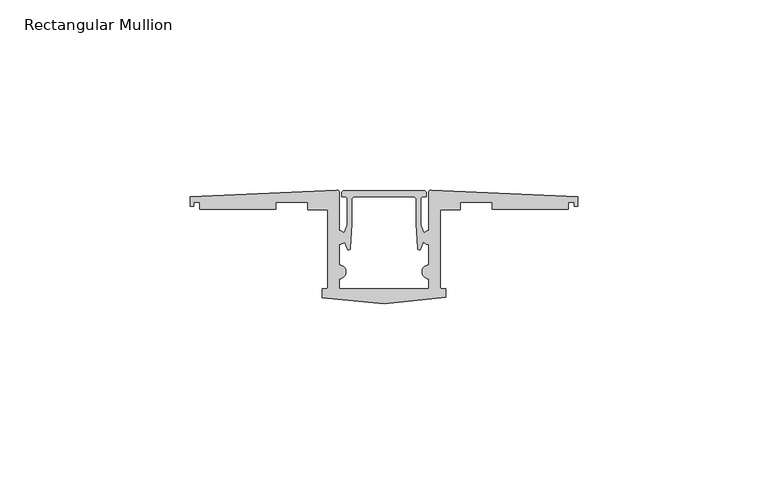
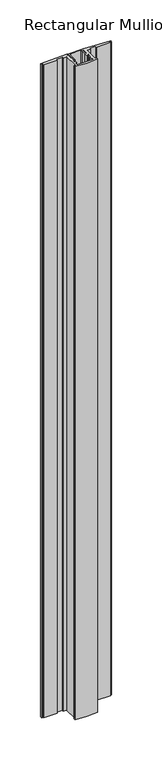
"""IFC4 building model written with IfcOpenShell, lengths in millimetres: member geometry, Rectangular Mullion : TE-H-01_03_Joint HF102."""

from ifc_helpers import new_model, si_unit, point, frame, frame_2d, origin, place, context, project, spatial, polyline, circle_curve, trimmed, segment, composite_curve, outline, extrude, source, transform, mapped, element, save


def rectangular_mullion_a47ee03b(model_context):
    return source(origin(), model_context, "Body", "SweptSolid", [
        extrude(outline(composite_curve([segment(polyline([(-16.3, -20.7636928), (-15.35, -20.7636928)]), True, "CONTINUOUS"), segment(trimmed(circle_curve(frame_2d((-15.35, -20.2136928)), 0.55), [point((-15.35, -20.7636928))], [point((-14.8, -20.2136928))], True, "CARTESIAN"), True, "CONTINUOUS"), segment(polyline([(-14.8, -20.2136928), (-14.8, 0.0), (-20.0, 0.0), (-20.0, 2.0), (-28.4182257, 2.0), (-28.4182257, 0.2), (-48.4182257, 0.2), (-48.4182257, 2.0), (-50.0239552, 2.0), (-50.0239552, 1.0305469), (-51.002067, 1.0305469), (-51.002067, 3.421028), (-12.3757889, 5.2341639)]), True, "CONTINUOUS"), segment(trimmed(circle_curve(frame_2d((-12.35, 4.6847689)), 0.55), [point((-12.3757889, 5.2341639))], [point((-11.8, 4.6847689))], False, "CARTESIAN"), True, "CONTINUOUS"), segment(polyline([(-11.8, 4.6847689), (-11.8, -5.4634871)]), True, "CONTINUOUS"), segment(trimmed(circle_curve(frame_2d((-11.8, -7.2634871)), 1.8), [point((-11.8, -5.4634871))], [point((-11.8, -9.0634871))], False, "CARTESIAN"), True, "CONTINUOUS"), segment(polyline([(-11.8, -9.0634871), (-11.8, -14.4634871)]), True, "CONTINUOUS"), segment(trimmed(circle_curve(frame_2d((-11.8, -16.2634871)), 1.8), [point((-11.8, -14.4634871))], [point((-11.8, -18.0634871))], False, "CARTESIAN"), True, "CONTINUOUS"), segment(polyline([(-11.8, -18.0634871), (-11.8, -20.7636928), (11.8, -20.7636928), (11.8, -18.0634871)]), True, "CONTINUOUS"), segment(trimmed(circle_curve(frame_2d((11.8, -16.2634871)), 1.8), [point((11.8, -18.0634871))], [point((11.8, -14.4634871))], False, "CARTESIAN"), True, "CONTINUOUS"), segment(polyline([(11.8, -14.4634871), (11.8, -9.0634871)]), True, "CONTINUOUS"), segment(trimmed(circle_curve(frame_2d((11.8, -7.2634871)), 1.8), [point((11.8, -9.0634871))], [point((10.3835688, -8.3742178))], False, "CARTESIAN"), True, "CONTINUOUS"), segment(polyline([(10.3835688, -8.3742178), (9.6235001, -10.23606)]), True, "CONTINUOUS"), segment(trimmed(circle_curve(frame_2d((9.2715591, -10.0931911)), 0.3798342), [point((9.6235001, -10.23606))], [point((8.8921936, -10.1120555))], False, "CARTESIAN"), True, "CONTINUOUS"), segment(polyline([(8.8921936, -10.1120555), (8.5126282, -3.7696514), (8.5126282, 2.5482227)]), True, "CONTINUOUS"), segment(trimmed(circle_curve(frame_2d((7.5126282, 2.5482227)), 1.0), [point((8.5126282, 2.5482227))], [point((7.5126282, 3.5482227))], True, "CARTESIAN"), True, "CONTINUOUS"), segment(polyline([(7.5126282, 3.5482227), (-7.5126282, 3.5482227)]), True, "CONTINUOUS"), segment(trimmed(circle_curve(frame_2d((-7.5126282, 2.5482227)), 1.0), [point((-7.5126282, 3.5482227))], [point((-8.5126282, 2.5482227))], True, "CARTESIAN"), True, "CONTINUOUS"), segment(polyline([(-8.5126282, 2.5482227), (-8.5126282, -3.7696514), (-8.8921936, -10.1120555)]), True, "CONTINUOUS"), segment(trimmed(circle_curve(frame_2d((-9.2715591, -10.0931911)), 0.3798342), [point((-8.8921936, -10.1120555))], [point((-9.6235002, -10.2360599))], False, "CARTESIAN"), True, "CONTINUOUS"), segment(polyline([(-9.6235002, -10.2360599), (-10.3404276, -8.4798952)]), True, "CONTINUOUS"), segment(trimmed(circle_curve(frame_2d((-11.8, -7.2634871)), 1.9), [point((-10.3404276, -8.4798952))], [point((-10.4433575, -5.9332537))], True, "CARTESIAN"), True, "CONTINUOUS"), segment(polyline([(-10.4433575, -5.9332537), (-9.7126284, -3.8448708), (-9.7126284, 2.9982227)]), True, "CONTINUOUS"), segment(trimmed(circle_curve(frame_2d((-10.2626284, 2.9982227)), 0.55), [point((-9.7126284, 2.9982227))], [point((-10.2626284, 3.5482227))], True, "CARTESIAN"), True, "CONTINUOUS"), segment(polyline([(-10.2626284, 3.5482227), (-11.0624892, 3.5482227), (-11.0624892, 4.4982227)]), True, "CONTINUOUS"), segment(trimmed(circle_curve(frame_2d((-10.5124892, 4.4982227)), 0.55), [point((-11.0624892, 4.4982227))], [point((-10.5124892, 5.0482227))], False, "CARTESIAN"), True, "CONTINUOUS"), segment(polyline([(-10.5124892, 5.0482227), (10.5124892, 5.0482227)]), True, "CONTINUOUS"), segment(trimmed(circle_curve(frame_2d((10.5124892, 4.4982227)), 0.55), [point((10.5124892, 5.0482227))], [point((11.0624892, 4.4982227))], False, "CARTESIAN"), True, "CONTINUOUS"), segment(polyline([(11.0624892, 4.4982227), (11.0624892, 3.5482227), (10.2626284, 3.5482227)]), True, "CONTINUOUS"), segment(trimmed(circle_curve(frame_2d((10.2626284, 2.9982227)), 0.55), [point((10.2626284, 3.5482227))], [point((9.7126284, 2.9982227))], True, "CARTESIAN"), True, "CONTINUOUS"), segment(polyline([(9.7126284, 2.9982227), (9.7126284, -3.8448708), (10.4804437, -6.039244)]), True, "CONTINUOUS"), segment(trimmed(circle_curve(frame_2d((11.8, -7.2634871)), 1.8), [point((10.4804437, -6.039244))], [point((11.8, -5.4634871))], False, "CARTESIAN"), True, "CONTINUOUS"), segment(polyline([(11.8, -5.4634871), (11.8, 4.6847689)]), True, "CONTINUOUS"), segment(trimmed(circle_curve(frame_2d((12.35, 4.6847689)), 0.55), [point((11.8, 4.6847689))], [point((12.3757889, 5.2341639))], False, "CARTESIAN"), True, "CONTINUOUS"), segment(polyline([(12.3757889, 5.2341639), (51.002067, 3.421028), (51.002067, 1.0305469), (50.0239552, 1.0305469), (50.0239552, 2.0), (48.4182257, 2.0), (48.4182257, 0.2), (28.4182257, 0.2), (28.4182257, 2.0), (20.0, 2.0), (20.0, 0.0), (14.8, 0.0), (14.8, -20.2136928)]), True, "CONTINUOUS"), segment(trimmed(circle_curve(frame_2d((15.35, -20.2136928)), 0.55), [point((14.8, -20.2136928))], [point((15.35, -20.7636928))], True, "CARTESIAN"), True, "CONTINUOUS"), segment(polyline([(15.35, -20.7636928), (16.3, -20.7636928), (16.3, -22.9365782)]), True, "CONTINUOUS"), segment(trimmed(circle_curve(frame_2d((-0.3778425, 55.077345)), 79.7767048), [point((16.3, -22.9365782))], [point((-16.3, -23.0943093))], False, "CARTESIAN"), True, "CONTINUOUS"), segment(polyline([(-16.3, -23.0943093), (-16.3, -20.7636928)]), True, "CONTINUOUS")], self_intersect=False)), frame((0.0, 0.0, -1000.0), z_axis=(0.0, 0.0, 1.0), x_axis=(1.0, 0.0, 0.0)), (0.0, 0.0, 1.0), 1000.0),
    ])


if __name__ == "__main__":
    model = new_model("IFC4")
    model_context = context("Model", 3, world=origin())
    ifc_project = project(units=[si_unit("LENGTHUNIT", "METRE", prefix="MILLI")], contexts=[model_context])
    site = spatial("IfcSite", under=ifc_project)
    building = spatial("IfcBuilding", under=site)
    placement = place(None, origin())
    rectangular_mullion_shape = rectangular_mullion_a47ee03b(model_context)
    element("IfcMember", 1, ObjectType="Rectangular Mullion : TE-H-01_03_Joint HF102", at=placement, inside=building, context=model_context, shape_type="MappedRepresentation", body=[
        mapped(rectangular_mullion_shape, transform((0.0, 0.0, 0.0), x_axis=(1.0, 0.0, 0.0), y_axis=(0.0, 1.0, 0.0), z_axis=(0.0, 0.0, 1.0))),
    ])
    save(model, "model.ifc")
